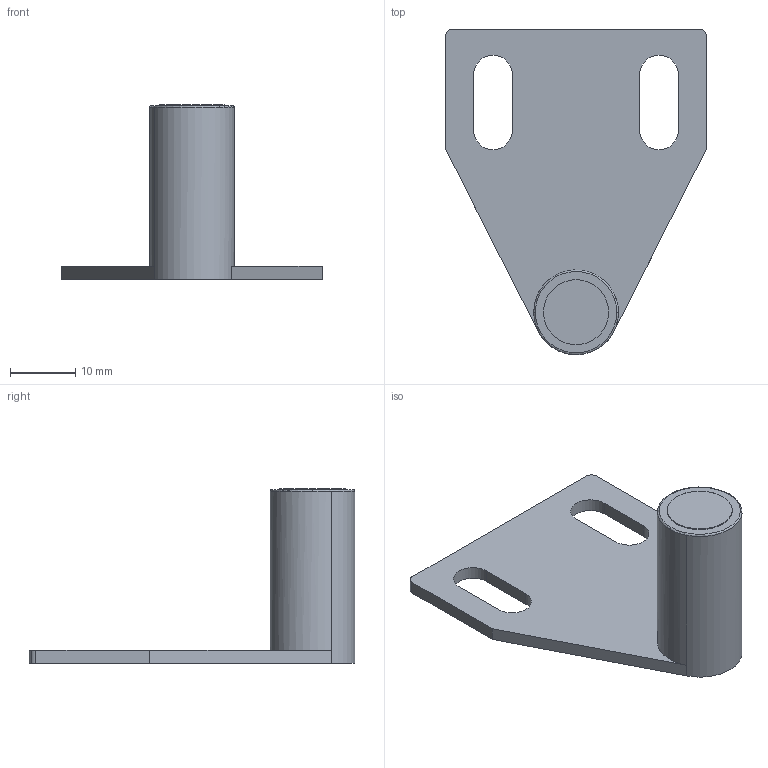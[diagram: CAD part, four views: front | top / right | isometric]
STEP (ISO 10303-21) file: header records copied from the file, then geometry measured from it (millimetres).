
FILE_DESCRIPTION (( 'STEP AP214' ), '1' );
FILE_NAME ('1.4037 Ovimagneetti C 13x25.STEP', '2025-09-15T07:03:50', ( '' ), ( '' ), 'SwSTEP 2.0', 'SolidWorks 2025', '' );
FILE_SCHEMA (( 'AUTOMOTIVE_DESIGN' ));
Length unit declared in the file: millimetre
Products named in the file (1): 1.4037 Ovimagneetti C 13x25
Bounding box: 40 x 50 x 26.85 mm (x, y, z)
Volume: 5951.8 mm3; surface area: 4120.8 mm2
Topology: 1 solids, 1 shells, 27 faces, 71 edges, 47 vertices
Faces by surface type: plane 13, cylinder 12, torus 2
Entity records: 879 total; most frequent: DIRECTION 158, CARTESIAN_POINT 146, ORIENTED_EDGE 142, EDGE_CURVE 71, AXIS2_PLACEMENT_3D 59, VERTEX_POINT 47, LINE 40, VECTOR 40
